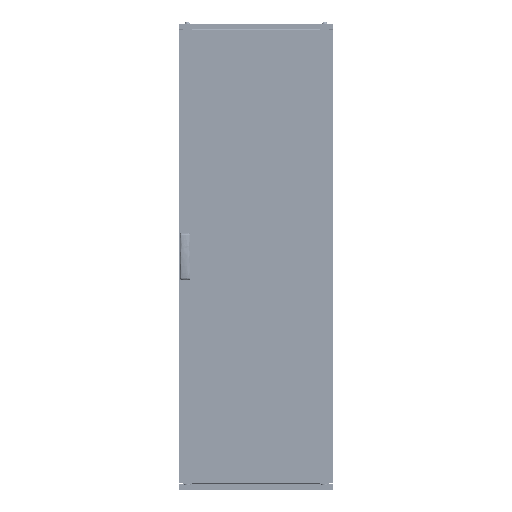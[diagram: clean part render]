
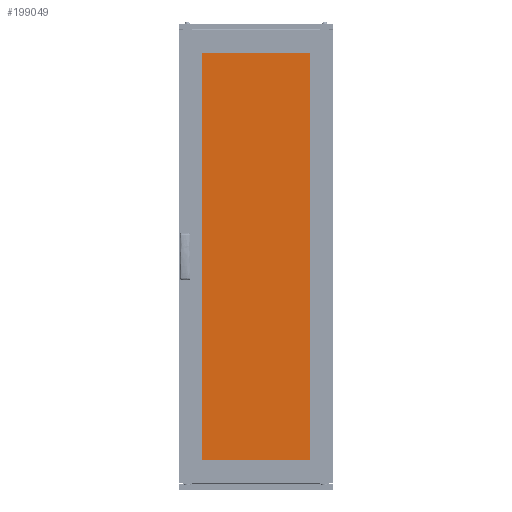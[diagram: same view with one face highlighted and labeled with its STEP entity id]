
A CAD part, top view. The second image highlights one B-rep face of the part: STEP entity #199049.
In plain terms, the highlighted planar face has unit normal (0, 0, 1).
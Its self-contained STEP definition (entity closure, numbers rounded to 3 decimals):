
#1896 = DIRECTION ( 'NONE',  ( -1., 0., 0. ) ) ;
#4720 = DIRECTION ( 'NONE',  ( 0., -1., 0. ) ) ;
#5129 = VECTOR ( 'NONE', #4720, 1000. ) ;
#7745 = DIRECTION ( 'NONE',  ( -1., 0., 0. ) ) ;
#16407 = VECTOR ( 'NONE', #7745, 1000. ) ;
#20546 = CARTESIAN_POINT ( 'NONE',  ( 230., 810., 5. ) ) ;
#24365 = CARTESIAN_POINT ( 'NONE',  ( -230., -810., 5. ) ) ;
#34588 = PLANE ( 'NONE',  #89856 ) ;
#43832 = CARTESIAN_POINT ( 'NONE',  ( -230., -810., 5. ) ) ;
#46973 = EDGE_CURVE ( 'NONE', #70465, #101499, #70030, .T. ) ;
#58002 = DIRECTION ( 'NONE',  ( 1., 0., 0. ) ) ;
#58834 = LINE ( 'NONE', #205829, #16407 ) ;
#60925 = DIRECTION ( 'NONE',  ( 0., 1., 0. ) ) ;
#64007 = CARTESIAN_POINT ( 'NONE',  ( -230., 810., 5. ) ) ;
#68239 = DIRECTION ( 'NONE',  ( 0., 0., -1. ) ) ;
#70030 = LINE ( 'NONE', #136453, #5129 ) ;
#70465 = VERTEX_POINT ( 'NONE', #64007 ) ;
#79880 = VERTEX_POINT ( 'NONE', #209327 ) ;
#89856 = AXIS2_PLACEMENT_3D ( 'NONE', #197886, #68239, #1896 ) ;
#101499 = VERTEX_POINT ( 'NONE', #24365 ) ;
#106406 = VECTOR ( 'NONE', #60925, 1000. ) ;
#108644 = EDGE_CURVE ( 'NONE', #79880, #131216, #135096, .T. ) ;
#109571 = EDGE_CURVE ( 'NONE', #131216, #70465, #58834, .T. ) ;
#119025 = EDGE_LOOP ( 'NONE', ( #143436, #121708, #161591, #154630 ) ) ;
#121708 = ORIENTED_EDGE ( 'NONE', *, *, #109571, .T. ) ;
#131216 = VERTEX_POINT ( 'NONE', #20546 ) ;
#132547 = FACE_OUTER_BOUND ( 'NONE', #119025, .T. ) ;
#135096 = LINE ( 'NONE', #201464, #106406 ) ;
#136453 = CARTESIAN_POINT ( 'NONE',  ( -230., -810., 5. ) ) ;
#143436 = ORIENTED_EDGE ( 'NONE', *, *, #108644, .T. ) ;
#154630 = ORIENTED_EDGE ( 'NONE', *, *, #209909, .T. ) ;
#161591 = ORIENTED_EDGE ( 'NONE', *, *, #46973, .T. ) ;
#192919 = LINE ( 'NONE', #43832, #204129 ) ;
#197886 = CARTESIAN_POINT ( 'NONE',  ( 0., 0., 5. ) ) ;
#199049 = ADVANCED_FACE ( 'NONE', ( #132547 ), #34588, .F. ) ;
#201464 = CARTESIAN_POINT ( 'NONE',  ( 230., -810., 5. ) ) ;
#204129 = VECTOR ( 'NONE', #58002, 1000. ) ;
#205829 = CARTESIAN_POINT ( 'NONE',  ( -230., 810., 5. ) ) ;
#209327 = CARTESIAN_POINT ( 'NONE',  ( 230., -810., 5. ) ) ;
#209909 = EDGE_CURVE ( 'NONE', #101499, #79880, #192919, .T. ) ;
